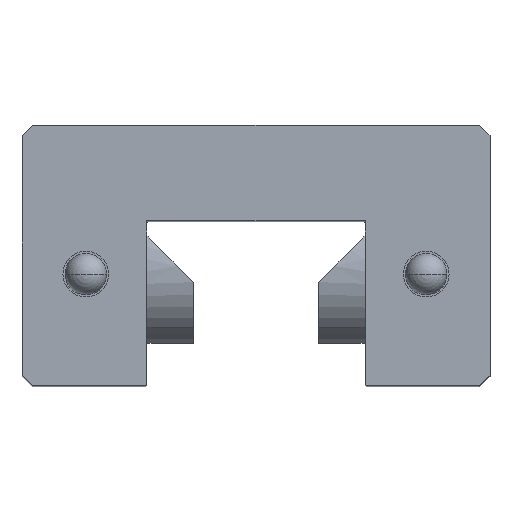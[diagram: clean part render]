
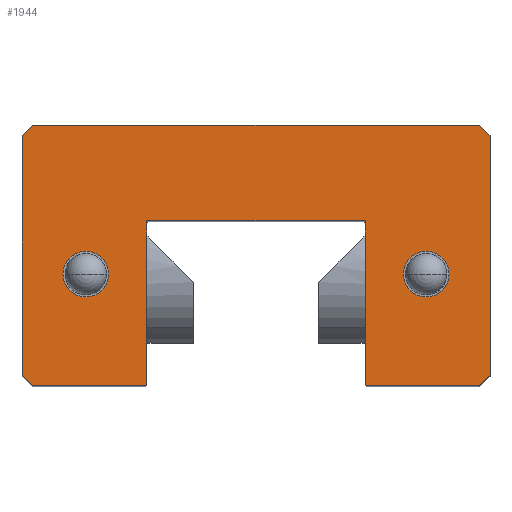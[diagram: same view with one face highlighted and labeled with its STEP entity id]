
A CAD part, top view. The second image highlights one B-rep face of the part: STEP entity #1944.
In plain terms, the highlighted planar face has unit normal (0, 0, 1).
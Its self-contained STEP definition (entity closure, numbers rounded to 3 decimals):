
#1472 = VERTEX_POINT( '', #4232 );
#1484 = VERTEX_POINT( '', #4245 );
#1696 = EDGE_CURVE( '', #3594, #2202, #4494, .T. );
#1718 = EDGE_CURVE( '', #2528, #3862, #4517, .T. );
#1862 = EDGE_CURVE( '', #3170, #4006, #4671, .T. );
#1914 = VERTEX_POINT( '', #4731 );
#1918 = EDGE_CURVE( '', #4006, #3170, #4735, .T. );
#1944 = ADVANCED_FACE( '', ( #4765, #4766, #4767 ), #4768, .T. );
#2124 = EDGE_CURVE( '', #2700, #4082, #4973, .T. );
#2202 = VERTEX_POINT( '', #5060 );
#2230 = VERTEX_POINT( '', #5090 );
#2330 = EDGE_CURVE( '', #3448, #3680, #5196, .T. );
#2364 = VERTEX_POINT( '', #5232 );
#2418 = EDGE_CURVE( '', #1472, #3448, #5291, .T. );
#2528 = VERTEX_POINT( '', #5416 );
#2556 = EDGE_CURVE( '', #3970, #2528, #5447, .T. );
#2700 = VERTEX_POINT( '', #5606 );
#2782 = EDGE_CURVE( '', #2860, #3966, #5700, .T. );
#2860 = VERTEX_POINT( '', #5785 );
#2882 = EDGE_CURVE( '', #4082, #2364, #5809, .T. );
#2924 = EDGE_CURVE( '', #2230, #1914, #5856, .T. );
#2928 = EDGE_CURVE( '', #3966, #2230, #5860, .T. );
#3018 = EDGE_CURVE( '', #3862, #2700, #5968, .T. );
#3146 = EDGE_CURVE( '', #2364, #2860, #6117, .T. );
#3170 = VERTEX_POINT( '', #6148 );
#3308 = EDGE_CURVE( '', #1914, #1472, #6302, .T. );
#3448 = VERTEX_POINT( '', #6458 );
#3468 = EDGE_CURVE( '', #2202, #3594, #6478, .T. );
#3484 = EDGE_CURVE( '', #1484, #3970, #6496, .T. );
#3594 = VERTEX_POINT( '', #6617 );
#3680 = VERTEX_POINT( '', #6715 );
#3862 = VERTEX_POINT( '', #6917 );
#3966 = VERTEX_POINT( '', #7030 );
#3970 = VERTEX_POINT( '', #7034 );
#3988 = EDGE_CURVE( '', #3680, #1484, #7054, .T. );
#4006 = VERTEX_POINT( '', #7077 );
#4082 = VERTEX_POINT( '', #7163 );
#4232 = CARTESIAN_POINT( '', ( -21., 30., 0. ) );
#4245 = CARTESIAN_POINT( '', ( -21., 5.5, 0. ) );
#4494 = CIRCLE( '', #7705, 2.15 );
#4517 = LINE( '', #7740, #7741 );
#4671 = CIRCLE( '', #7945, 2.15 );
#4731 = CARTESIAN_POINT( '', ( 21., 30., 0. ) );
#4735 = CIRCLE( '', #8034, 2.15 );
#4765 = FACE_BOUND( '', #8076, .T. );
#4766 = FACE_BOUND( '', #8077, .T. );
#4767 = FACE_OUTER_BOUND( '', #8078, .T. );
#4768 = PLANE( '', #8079 );
#4973 = LINE( '', #8358, #8359 );
#5060 = CARTESIAN_POINT( '', ( -16., 13.85, 0. ) );
#5090 = CARTESIAN_POINT( '', ( 22., 29., 0. ) );
#5196 = LINE( '', #8670, #8671 );
#5232 = CARTESIAN_POINT( '', ( 10.35, 5.5, 0. ) );
#5291 = LINE( '', #8801, #8802 );
#5416 = CARTESIAN_POINT( '', ( -10.25, 5.6, 0. ) );
#5447 = LINE( '', #9013, #9014 );
#5606 = CARTESIAN_POINT( '', ( 10.25, 21., 0. ) );
#5700 = LINE( '', #9360, #9361 );
#5785 = CARTESIAN_POINT( '', ( 21., 5.5, 0. ) );
#5809 = LINE( '', #9514, #9515 );
#5856 = LINE( '', #9575, #9576 );
#5860 = LINE( '', #9583, #9584 );
#5968 = LINE( '', #9724, #9725 );
#6117 = LINE( '', #9915, #9916 );
#6148 = CARTESIAN_POINT( '', ( 16., 13.85, 0. ) );
#6302 = LINE( '', #10165, #10166 );
#6458 = CARTESIAN_POINT( '', ( -22., 29., 0. ) );
#6478 = CIRCLE( '', #10416, 2.15 );
#6496 = LINE( '', #10439, #10440 );
#6617 = CARTESIAN_POINT( '', ( -16., 18.15, 0. ) );
#6715 = CARTESIAN_POINT( '', ( -22., 6.5, 0. ) );
#6917 = CARTESIAN_POINT( '', ( -10.25, 21., 0. ) );
#7030 = CARTESIAN_POINT( '', ( 22., 6.5, 0. ) );
#7034 = CARTESIAN_POINT( '', ( -10.35, 5.5, 0. ) );
#7054 = LINE( '', #11189, #11190 );
#7077 = CARTESIAN_POINT( '', ( 16., 18.15, 0. ) );
#7163 = CARTESIAN_POINT( '', ( 10.25, 5.6, 0. ) );
#7705 = AXIS2_PLACEMENT_3D( '', #11838, #11839, #11840 );
#7740 = CARTESIAN_POINT( '', ( -10.25, 5.6, 0. ) );
#7741 = VECTOR( '', #11864, 1. );
#7945 = AXIS2_PLACEMENT_3D( '', #11992, #11993, #11994 );
#8034 = AXIS2_PLACEMENT_3D( '', #12085, #12086, #12087 );
#8076 = EDGE_LOOP( '', ( #12129, #12130 ) );
#8077 = EDGE_LOOP( '', ( #12131, #12132 ) );
#8078 = EDGE_LOOP( '', ( #12133, #12134, #12135, #12136, #12137, #12138, #12139, #12140, #12141, #12142, #12143, #12144, #12145, #12146 ) );
#8079 = AXIS2_PLACEMENT_3D( '', #12147, #12148, #12149 );
#8358 = CARTESIAN_POINT( '', ( 10.25, 21., 0. ) );
#8359 = VECTOR( '', #12404, 1. );
#8670 = CARTESIAN_POINT( '', ( -22., 29., 0. ) );
#8671 = VECTOR( '', #12624, 1. );
#8801 = CARTESIAN_POINT( '', ( -21., 30., 0. ) );
#8802 = VECTOR( '', #12697, 1. );
#9013 = CARTESIAN_POINT( '', ( -10.35, 5.5, 0. ) );
#9014 = VECTOR( '', #12872, 1. );
#9360 = CARTESIAN_POINT( '', ( 21., 5.5, 0. ) );
#9361 = VECTOR( '', #13165, 1. );
#9514 = CARTESIAN_POINT( '', ( 10.25, 5.6, 0. ) );
#9515 = VECTOR( '', #13275, 1. );
#9575 = CARTESIAN_POINT( '', ( 22., 29., 0. ) );
#9576 = VECTOR( '', #13327, 1. );
#9583 = CARTESIAN_POINT( '', ( 22., 6.5, 0. ) );
#9584 = VECTOR( '', #13329, 1. );
#9724 = CARTESIAN_POINT( '', ( -10.25, 21., 0. ) );
#9725 = VECTOR( '', #13459, 1. );
#9915 = CARTESIAN_POINT( '', ( 10.35, 5.5, 0. ) );
#9916 = VECTOR( '', #13630, 1. );
#10165 = CARTESIAN_POINT( '', ( 21., 30., 0. ) );
#10166 = VECTOR( '', #13855, 1. );
#10416 = AXIS2_PLACEMENT_3D( '', #14029, #14030, #14031 );
#10439 = CARTESIAN_POINT( '', ( -21., 5.5, 0. ) );
#10440 = VECTOR( '', #14055, 1. );
#11189 = CARTESIAN_POINT( '', ( -22., 6.5, 0. ) );
#11190 = VECTOR( '', #14669, 1. );
#11838 = CARTESIAN_POINT( '', ( -16., 16., 0. ) );
#11839 = DIRECTION( '', ( 0., 0., -1. ) );
#11840 = DIRECTION( '', ( 0., -1., 0. ) );
#11864 = DIRECTION( '', ( 0., 1., 0. ) );
#11992 = CARTESIAN_POINT( '', ( 16., 16., 0. ) );
#11993 = DIRECTION( '', ( 0., 0., -1. ) );
#11994 = DIRECTION( '', ( 0., -1., 0. ) );
#12085 = CARTESIAN_POINT( '', ( 16., 16., 0. ) );
#12086 = DIRECTION( '', ( 0., 0., -1. ) );
#12087 = DIRECTION( '', ( 0., -1., 0. ) );
#12129 = ORIENTED_EDGE( '', *, *, #1918, .T. );
#12130 = ORIENTED_EDGE( '', *, *, #1862, .T. );
#12131 = ORIENTED_EDGE( '', *, *, #1696, .T. );
#12132 = ORIENTED_EDGE( '', *, *, #3468, .T. );
#12133 = ORIENTED_EDGE( '', *, *, #2330, .T. );
#12134 = ORIENTED_EDGE( '', *, *, #3988, .T. );
#12135 = ORIENTED_EDGE( '', *, *, #3484, .T. );
#12136 = ORIENTED_EDGE( '', *, *, #2556, .T. );
#12137 = ORIENTED_EDGE( '', *, *, #1718, .T. );
#12138 = ORIENTED_EDGE( '', *, *, #3018, .T. );
#12139 = ORIENTED_EDGE( '', *, *, #2124, .T. );
#12140 = ORIENTED_EDGE( '', *, *, #2882, .T. );
#12141 = ORIENTED_EDGE( '', *, *, #3146, .T. );
#12142 = ORIENTED_EDGE( '', *, *, #2782, .T. );
#12143 = ORIENTED_EDGE( '', *, *, #2928, .T. );
#12144 = ORIENTED_EDGE( '', *, *, #2924, .T. );
#12145 = ORIENTED_EDGE( '', *, *, #3308, .T. );
#12146 = ORIENTED_EDGE( '', *, *, #2418, .T. );
#12147 = CARTESIAN_POINT( '', ( 0., 0., 0. ) );
#12148 = DIRECTION( '', ( 0., 0., 1. ) );
#12149 = DIRECTION( '', ( 1., 0., 0. ) );
#12404 = DIRECTION( '', ( 0., -1., 0. ) );
#12624 = DIRECTION( '', ( 0., -1., 0. ) );
#12697 = DIRECTION( '', ( -0.707, -0.707, 0. ) );
#12872 = DIRECTION( '', ( 0.707, 0.707, 0. ) );
#13165 = DIRECTION( '', ( 0.707, 0.707, 0. ) );
#13275 = DIRECTION( '', ( 0.707, -0.707, 0. ) );
#13327 = DIRECTION( '', ( -0.707, 0.707, 0. ) );
#13329 = DIRECTION( '', ( 0., 1., 0. ) );
#13459 = DIRECTION( '', ( 1., 0., 0. ) );
#13630 = DIRECTION( '', ( 1., 0., 0. ) );
#13855 = DIRECTION( '', ( -1., 0., 0. ) );
#14029 = CARTESIAN_POINT( '', ( -16., 16., 0. ) );
#14030 = DIRECTION( '', ( 0., 0., -1. ) );
#14031 = DIRECTION( '', ( 0., -1., 0. ) );
#14055 = DIRECTION( '', ( 1., 0., 0. ) );
#14669 = DIRECTION( '', ( 0.707, -0.707, 0. ) );
